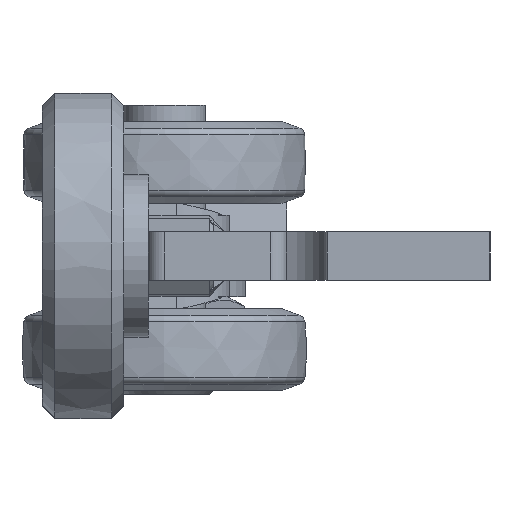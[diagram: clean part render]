
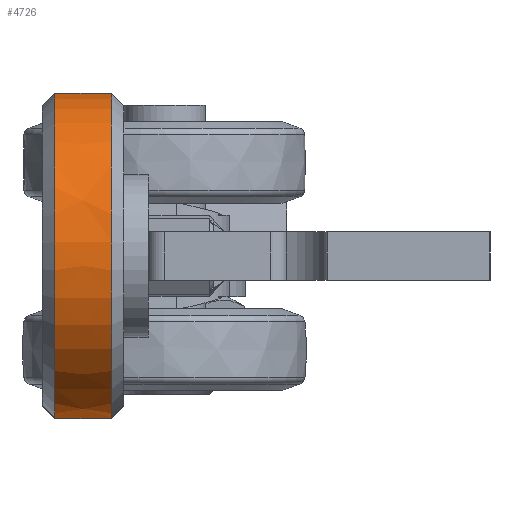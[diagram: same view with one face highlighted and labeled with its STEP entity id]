
A CAD part, left-side view. The second image highlights one B-rep face of the part: STEP entity #4726.
In plain terms, the highlighted free-form (B-spline) face has degree [2, 2] with [3, 9] control points.
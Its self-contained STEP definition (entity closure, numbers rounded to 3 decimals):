
#146=(
BOUNDED_SURFACE()
B_SPLINE_SURFACE(2,2,((#13263,#13264,#13265,#13266,#13267,#13268,#13269,
#13270,#13271),(#13272,#13273,#13274,#13275,#13276,#13277,#13278,#13279,
#13280),(#13281,#13282,#13283,#13284,#13285,#13286,#13287,#13288,#13289)),
 .UNSPECIFIED.,.F.,.T.,.F.)
B_SPLINE_SURFACE_WITH_KNOTS((3,3),(3,2,2,2,3),(-0.018,0.018),
(-3.142,-1.571,0.,1.571,3.142),
 .UNSPECIFIED.)
GEOMETRIC_REPRESENTATION_ITEM()
RATIONAL_B_SPLINE_SURFACE(((1.,0.707,1.,0.707,1.,
0.707,1.,0.707,1.),(1.,0.707,
1.,0.707,1.,0.707,
1.,0.707,1.),(1.,0.707,
1.,0.707,1.,0.707,1.,0.707,1.)))
REPRESENTATION_ITEM('')
SURFACE()
);
#336=(
BOUNDED_CURVE()
B_SPLINE_CURVE(2,(#13294,#13295,#13296),.UNSPECIFIED.,.F.,.F.)
B_SPLINE_CURVE_WITH_KNOTS((3,3),(-0.018,0.018),
 .UNSPECIFIED.)
CURVE()
GEOMETRIC_REPRESENTATION_ITEM()
RATIONAL_B_SPLINE_CURVE((1.,1.,1.))
REPRESENTATION_ITEM('')
);
#699=FACE_OUTER_BOUND('',#1026,.T.);
#1026=EDGE_LOOP('',(#3745,#3746,#3747,#3748,#3749,#3750));
#1332=CIRCLE('',#5129,19.969);
#1333=CIRCLE('',#5130,19.969);
#1334=CIRCLE('',#5131,19.969);
#1335=CIRCLE('',#5132,19.969);
#2263=VERTEX_POINT('',#13259);
#2264=VERTEX_POINT('',#13260);
#2265=VERTEX_POINT('',#13290);
#2266=VERTEX_POINT('',#13291);
#2805=EDGE_CURVE('',#2263,#2264,#1332,.T.);
#2806=EDGE_CURVE('',#2264,#2263,#1333,.T.);
#2807=EDGE_CURVE('',#2265,#2266,#1334,.T.);
#2808=EDGE_CURVE('',#2266,#2265,#1335,.T.);
#2809=EDGE_CURVE('',#2266,#2264,#336,.T.);
#3745=ORIENTED_EDGE('',*,*,#2807,.F.);
#3746=ORIENTED_EDGE('',*,*,#2808,.F.);
#3747=ORIENTED_EDGE('',*,*,#2809,.T.);
#3748=ORIENTED_EDGE('',*,*,#2806,.T.);
#3749=ORIENTED_EDGE('',*,*,#2805,.T.);
#3750=ORIENTED_EDGE('',*,*,#2809,.F.);
#4726=ADVANCED_FACE('',(#699),#146,.F.);
#5129=AXIS2_PLACEMENT_3D('',#13261,#6089,#6090);
#5130=AXIS2_PLACEMENT_3D('',#13262,#6091,#6092);
#5131=AXIS2_PLACEMENT_3D('',#13292,#6093,#6094);
#5132=AXIS2_PLACEMENT_3D('',#13293,#6095,#6096);
#6089=DIRECTION('center_axis',(0.,1.,0.));
#6090=DIRECTION('ref_axis',(-1.,0.,0.));
#6091=DIRECTION('center_axis',(0.,1.,0.));
#6092=DIRECTION('ref_axis',(-1.,0.,0.));
#6093=DIRECTION('center_axis',(0.,1.,0.));
#6094=DIRECTION('ref_axis',(-1.,0.,0.));
#6095=DIRECTION('center_axis',(0.,1.,0.));
#6096=DIRECTION('ref_axis',(-1.,0.,0.));
#13259=CARTESIAN_POINT('',(-19.969,-6.5,0.));
#13260=CARTESIAN_POINT('',(0.,-6.5,-19.969));
#13261=CARTESIAN_POINT('Origin',(0.,-6.5,0.));
#13262=CARTESIAN_POINT('Origin',(0.,-6.5,0.));
#13263=CARTESIAN_POINT('Ctrl Pts',(0.,-6.5,-19.969));
#13264=CARTESIAN_POINT('Ctrl Pts',(-19.969,-6.5,
-19.969));
#13265=CARTESIAN_POINT('Ctrl Pts',(-19.969,-6.5,
0.));
#13266=CARTESIAN_POINT('Ctrl Pts',(-19.969,-6.5,
19.969));
#13267=CARTESIAN_POINT('Ctrl Pts',(0.,-6.5,19.969));
#13268=CARTESIAN_POINT('Ctrl Pts',(19.969,-6.5,19.969));
#13269=CARTESIAN_POINT('Ctrl Pts',(19.969,-6.5,0.));
#13270=CARTESIAN_POINT('Ctrl Pts',(19.969,-6.5,-19.969));
#13271=CARTESIAN_POINT('Ctrl Pts',(0.,-6.5,-19.969));
#13272=CARTESIAN_POINT('Ctrl Pts',(0.,-3.,-20.031));
#13273=CARTESIAN_POINT('Ctrl Pts',(-20.031,-3.,-20.031));
#13274=CARTESIAN_POINT('Ctrl Pts',(-20.031,-3.,0.));
#13275=CARTESIAN_POINT('Ctrl Pts',(-20.031,-3.,20.031));
#13276=CARTESIAN_POINT('Ctrl Pts',(0.,-3.,20.031));
#13277=CARTESIAN_POINT('Ctrl Pts',(20.031,-3.,20.031));
#13278=CARTESIAN_POINT('Ctrl Pts',(20.031,-3.,0.));
#13279=CARTESIAN_POINT('Ctrl Pts',(20.031,-3.,-20.031));
#13280=CARTESIAN_POINT('Ctrl Pts',(0.,-3.,-20.031));
#13281=CARTESIAN_POINT('Ctrl Pts',(0.,0.5,-19.969));
#13282=CARTESIAN_POINT('Ctrl Pts',(-19.969,0.5,
-19.969));
#13283=CARTESIAN_POINT('Ctrl Pts',(-19.969,0.5,
0.));
#13284=CARTESIAN_POINT('Ctrl Pts',(-19.969,0.5,
19.969));
#13285=CARTESIAN_POINT('Ctrl Pts',(0.,0.5,19.969));
#13286=CARTESIAN_POINT('Ctrl Pts',(19.969,0.5,19.969));
#13287=CARTESIAN_POINT('Ctrl Pts',(19.969,0.5,0.));
#13288=CARTESIAN_POINT('Ctrl Pts',(19.969,0.5,-19.969));
#13289=CARTESIAN_POINT('Ctrl Pts',(0.,0.5,-19.969));
#13290=CARTESIAN_POINT('',(-19.969,0.5,0.));
#13291=CARTESIAN_POINT('',(0.,0.5,-19.969));
#13292=CARTESIAN_POINT('Origin',(0.,0.5,0.));
#13293=CARTESIAN_POINT('Origin',(0.,0.5,0.));
#13294=CARTESIAN_POINT('Ctrl Pts',(0.,0.5,-19.969));
#13295=CARTESIAN_POINT('Ctrl Pts',(0.,-3.,-20.031));
#13296=CARTESIAN_POINT('Ctrl Pts',(0.,-6.5,-19.969));
